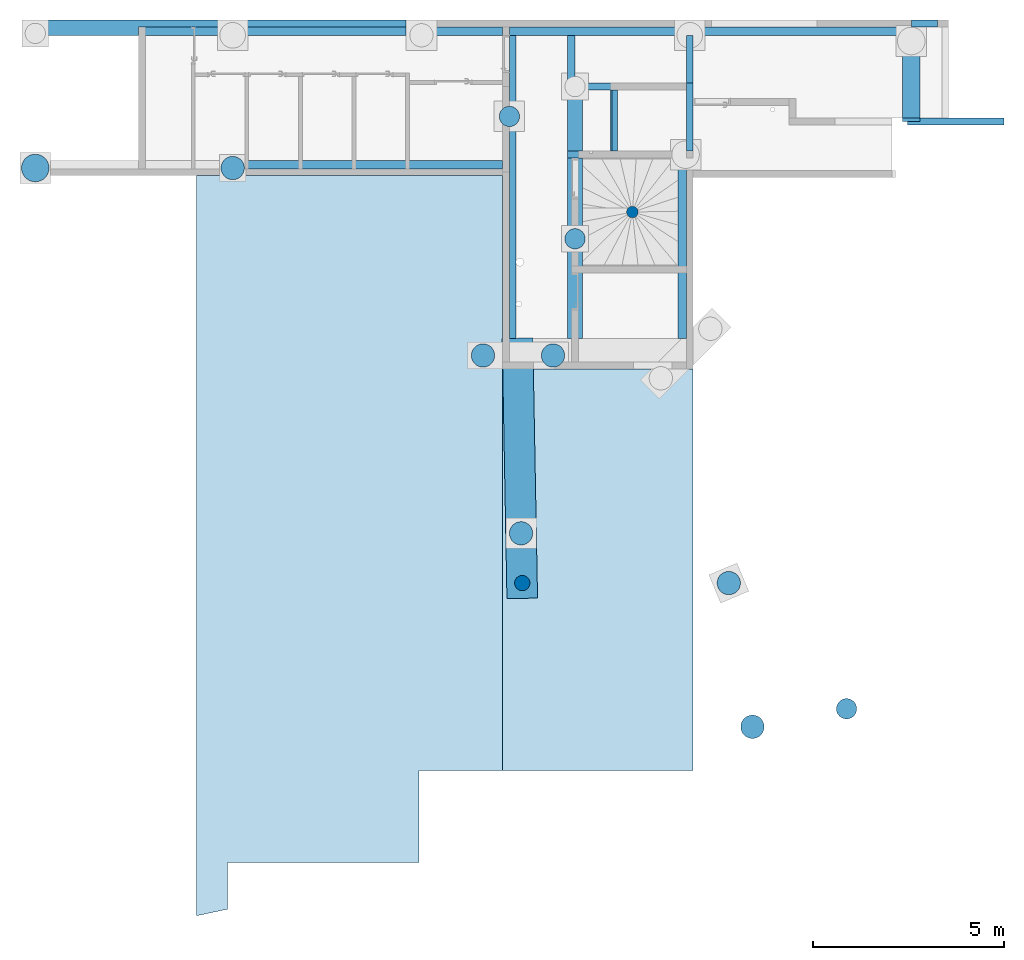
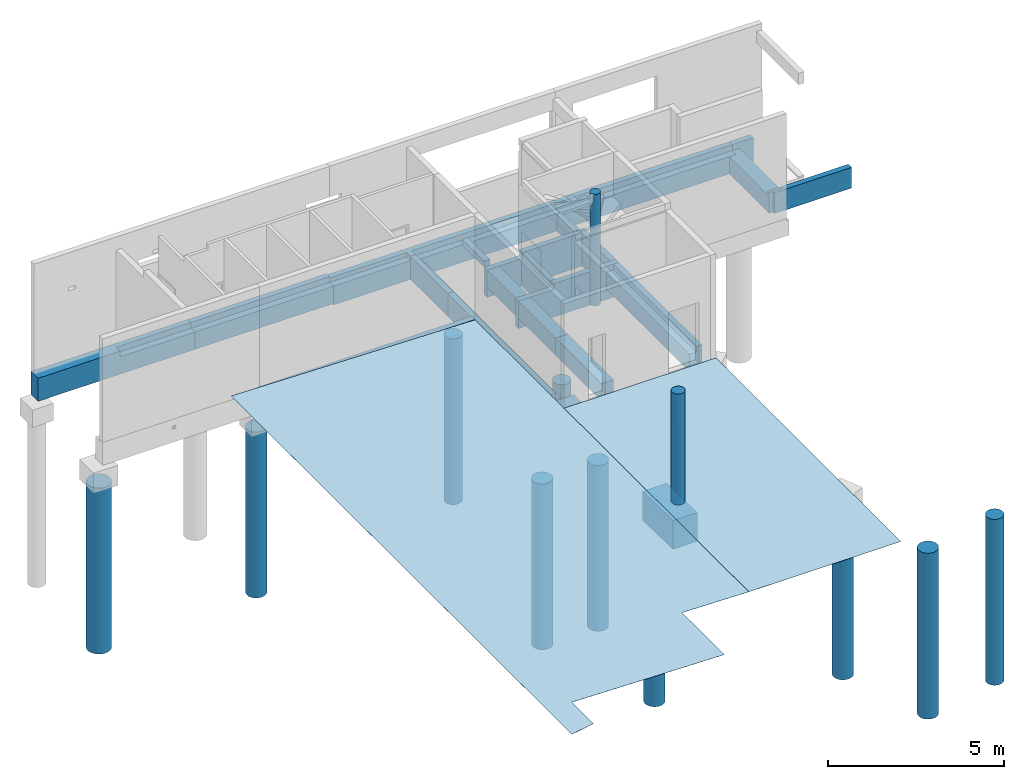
# One storey, part 1 of 14: 21 beams, 12 slabs, 2 columns, 3 openings.
"""IFC2X3 building model written with IfcOpenShell, lengths in centimetres."""

from ifc_helpers import new_model, entity, si_unit, converted_unit, derived_unit, direction, frame, frame_2d, origin, origin_2d_with_axis, place, context, subcontext, project, spatial, polyline, rectangle, circle, outline, extrude, faceted_brep, source, transform, mapped, material, material_list, layer, layer_set, layer_usage, type_object, type_shapes, element, save


model = new_model("IFC2X3")

# Units and contexts
model_context = context("Model", 3, precision=0.001, world=origin(), true_north=direction((6.12303176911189e-17, 1.0)))
body_context = subcontext(model_context, "Body", "Model", "MODEL_VIEW")
ifc_project = project(units=[si_unit("LENGTHUNIT", "METRE", prefix="CENTI"), si_unit("AREAUNIT", "SQUARE_METRE"), si_unit("VOLUMEUNIT", "CUBIC_METRE"), converted_unit("PLANEANGLEUNIT", "DEGREE", entity("IfcRatioMeasure", 0.0174532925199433), si_unit("PLANEANGLEUNIT", "RADIAN"), dimensions=[0, 0, 0, 0, 0, 0, 0]), si_unit("MASSUNIT", "GRAM", prefix="KILO"), derived_unit("MASSDENSITYUNIT", [(si_unit("MASSUNIT", "GRAM", prefix="KILO"), 1), (si_unit("LENGTHUNIT", "METRE"), -3)]), si_unit("TIMEUNIT", "SECOND"), si_unit("FREQUENCYUNIT", "HERTZ"), si_unit("THERMODYNAMICTEMPERATUREUNIT", "DEGREE_CELSIUS"), derived_unit("THERMALTRANSMITTANCEUNIT", [(si_unit("MASSUNIT", "GRAM", prefix="KILO"), 1), (si_unit("THERMODYNAMICTEMPERATUREUNIT", "KELVIN"), -1), (si_unit("TIMEUNIT", "SECOND"), -3)]), derived_unit("VOLUMETRICFLOWRATEUNIT", [(si_unit("LENGTHUNIT", "METRE"), 3), (si_unit("TIMEUNIT", "SECOND"), -1)]), si_unit("ELECTRICCURRENTUNIT", "AMPERE"), si_unit("ELECTRICVOLTAGEUNIT", "VOLT"), si_unit("POWERUNIT", "WATT"), si_unit("FORCEUNIT", "NEWTON"), si_unit("ILLUMINANCEUNIT", "LUX"), si_unit("LUMINOUSFLUXUNIT", "LUMEN"), si_unit("LUMINOUSINTENSITYUNIT", "CANDELA"), derived_unit("USERDEFINED", [(si_unit("MASSUNIT", "GRAM", prefix="KILO"), -1), (si_unit("LENGTHUNIT", "METRE"), -2), (si_unit("TIMEUNIT", "SECOND"), 3), (si_unit("LUMINOUSFLUXUNIT", "LUMEN"), 1)]), derived_unit("LINEARVELOCITYUNIT", [(si_unit("LENGTHUNIT", "METRE"), 1), (si_unit("TIMEUNIT", "SECOND"), -1)]), si_unit("PRESSUREUNIT", "PASCAL"), derived_unit("USERDEFINED", [(si_unit("LENGTHUNIT", "METRE"), -2), (si_unit("MASSUNIT", "GRAM", prefix="KILO"), 1), (si_unit("TIMEUNIT", "SECOND"), -2)])], contexts=[model_context])

# Site, building, storey
site_placement = place(None, origin())
site = spatial("IfcSite", under=ifc_project, at=site_placement, Name="Default", CompositionType="ELEMENT")
building_placement = place(site_placement, origin())
building = spatial("IfcBuilding", under=site, at=building_placement, Name="CAGE 03", CompositionType="ELEMENT")
storey_placement = place(building_placement, frame((0.0, 0.0, -42.0)))
storey = spatial("IfcBuildingStorey", under=building, at=storey_placement, Name="+3.58", CompositionType="ELEMENT", Elevation=-42.0000000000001)

# Columns
ifc_material_1 = material(Name="Béton, C25/30")
column_type_1 = type_object("IfcColumnType", Name="Ø40", PredefinedType="COLUMN", material=ifc_material_1)
shared_shape_1 = source(origin(), body_context, "Body", "SweptSolid", [
    extrude(circle(Radius=20.0000000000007, at=frame_2d((-3.75232390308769e-26, -8.66293703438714e-13), x_axis=(1.0, 0.0))), frame((10061.3658201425, 3821.66066607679, 240.0), z_axis=(0.0, 0.0, 1.0), x_axis=(-1.0, 0.0, 0.0)), (0.0, 0.0, 1.0), 100.0),
    extrude(circle(Radius=20.0000000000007, at=frame_2d((-3.75232390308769e-26, -8.66293703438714e-13), x_axis=(1.0, 0.0))), frame((10061.3658201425, 3821.66066607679, -74.0)), (0.0, 0.0, 1.0), 314.0),
])
type_shapes(column_type_1, [shared_shape_1])
column_1_placement = place(storey_placement, frame((0.0, 0.0, 42.0)))
element("IfcColumn", 1, at=column_1_placement, inside=storey, type_object=column_type_1, material=ifc_material_1, Name="BBGO-Poteau circ:Ø40", ObjectType="Ø40", context=body_context, shape_type="MappedRepresentation", body=[
    mapped(shared_shape_1, transform((0.0, 0.0, 0.0), scale=1.0)),
])
ifc_material_2 = material(Name="Béton, panneaux préfa 30/37")
column_type_2 = type_object("IfcColumnType", Name="Ø30", PredefinedType="COLUMN", material=ifc_material_2)
shared_shape_2 = source(origin(), body_context, "Body", "SweptSolid", [
    extrude(circle(Radius=15.0, at=origin_2d_with_axis()), frame((10349.3658201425, 4791.66066607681, 320.0), z_axis=(0.0, 0.0, 1.0), x_axis=(-1.0, 0.0, 0.0)), (0.0, 0.0, 1.0), 20.0),
    extrude(circle(Radius=15.0, at=origin_2d_with_axis()), frame((10349.3658201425, 4791.66066607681, -47.0)), (0.0, 0.0, 1.0), 367.0),
])
type_shapes(column_type_2, [shared_shape_2])
column_2_placement = place(storey_placement, frame((0.0, 0.0, 42.0)))
element("IfcColumn", 2, at=column_2_placement, inside=storey, type_object=column_type_2, material=ifc_material_2, Name="BBGO-Poteau circ:Ø30", ObjectType="Ø30", context=body_context, shape_type="MappedRepresentation", body=[
    mapped(shared_shape_2, transform((0.0, 0.0, 0.0), scale=1.0)),
])

# Beams
ifc_material_3 = material(Name="<Unnamed>")
ifc_material_list = material_list([ifc_material_1, ifc_material_3])
beam_type_1 = type_object("IfcBeamType", Name="40x80ht", PredefinedType="BEAM", material=ifc_material_list)
beam_1_placement = place(storey_placement, frame((8789.36582014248, 5253.66066607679, -80.0)))
element("IfcBeam", 3, at=beam_1_placement, inside=storey, type_object=beam_type_1, material=ifc_material_1, Name="BBGO-Poutre rect:40x80ht", ObjectType="BBGO-Poutre rect:40x80ht", context=body_context, shape_type="Brep", body=[
    faceted_brep([(0.0, 0.0, 80.0), (0.0, 22.0, 80.0), (0.0, 40.0, 80.0), (0.0, 40.0, 0.0), (0.0, 0.0, 0.0), (515.0, 0.0, 0.0), (515.0, 0.0, 60.0), (269.0, 0.0, 60.0), (269.0, 0.0, 80.0), (34.0, 40.0, 0.0), (475.0, 40.0, 0.0), (515.0, 40.0, 0.0), (515.0, 40.0, 80.0), (269.0, 22.0, 80.0), (515.0, 22.0, 80.0), (515.0, 22.0, 60.0), (269.0, 22.0, 60.0)], [[[0, 1, 2, 3, 4]], [[0, 4, 5, 6, 7, 8]], [[4, 3, 9, 10, 11, 5]], [[3, 2, 12, 11, 10, 9]], [[2, 1, 0, 8, 13, 14, 12]], [[15, 16, 7, 6]], [[16, 13, 8, 7]], [[13, 16, 15, 14]], [[5, 11, 12, 14, 15, 6]]]),
])
beam_2_placement = place(storey_placement, frame((9304.36582014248, 5293.66066607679, 0.0)))
element("IfcBeam", 4, at=beam_2_placement, inside=storey, type_object=beam_type_1, material=ifc_material_1, Name="BBGO-Poutre rect:40x80ht", ObjectType="BBGO-Poutre rect:40x80ht", context=body_context, shape_type="SweptSolid", body=[
    extrude(outline(polyline([(-13.3333333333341, -20.6666666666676), (46.6666666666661, -20.6666666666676), (46.6666666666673, 19.3333333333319), (-33.3333333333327, 19.3333333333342), (-33.3333333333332, 1.33333333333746), (-13.3333333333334, 1.33333333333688), (-13.3333333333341, -20.6666666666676)])), frame((0.0, -19.3333333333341, -33.3333333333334), z_axis=(1.0, 0.0, 0.0), x_axis=(0.0, 0.0, -1.0)), (0.0, 0.0, 1.0), 453.499999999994),
])
beam_3_placement = place(storey_placement, frame((9757.86582014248, 5253.66066607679, -85.0)))
element("IfcBeam", 5, at=beam_3_placement, inside=storey, type_object=beam_type_1, material=ifc_material_1, Name="BBGO-Poutre rect:40x80ht", ObjectType="BBGO-Poutre rect:40x80ht", context=body_context, shape_type="Brep", body=[
    faceted_brep([(0.0, 0.0, 0.0), (252.5, 0.0, 0.0), (287.499999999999, 0.0, 0.0), (732.499999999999, 0.0, 0.0), (741.5, 0.0, 0.0), (741.5, 0.0, 60.0), (732.499999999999, 0.0, 60.0), (287.499999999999, 0.0, 60.0), (270.499999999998, 0.0, 60.0), (270.499999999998, 0.0, 80.0), (252.5, 0.0, 80.0), (252.5, 0.0, 65.0), (0.0, 0.0, 65.0), (0.0, 0.0, 5.0), (0.0, 40.0, 0.0), (80.0, 40.0, 0.0), (701.5, 40.0, 0.0), (741.5, 40.0, 0.0), (0.0, 40.0, 5.0), (0.0, 40.0, 80.0), (741.5, 40.0, 80.0), (0.0, 22.0, 80.0), (252.5, 22.0, 80.0), (270.499999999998, 22.0, 80.0), (741.5, 22.0, 80.0), (741.5, 22.0, 60.0), (270.499999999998, 22.0, 60.0), (252.5, 22.0, 65.0), (0.0, 22.0, 65.0)], [[[0, 1, 2, 3, 4, 5, 6, 7, 8, 9, 10, 11, 12, 13]], [[4, 3, 2, 1, 0, 14, 15, 16, 17]], [[17, 16, 15, 14, 18, 19, 20]], [[20, 19, 21, 22, 10, 9, 23, 24]], [[4, 17, 20, 24, 25, 5]], [[25, 26, 8, 7, 6, 5]], [[26, 25, 24, 23]], [[26, 23, 9, 8]], [[27, 28, 12, 11]], [[27, 11, 10, 22]], [[28, 27, 22, 21]], [[19, 18, 14, 0, 13, 12, 28, 21]]]),
])
beam_4_placement = place(storey_placement, frame((10499.3658201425, 5293.66066607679, 0.0)))
element("IfcBeam", 6, at=beam_4_placement, inside=storey, type_object=beam_type_1, material=ifc_material_1, Name="BBGO-Poutre rect:40x80ht", ObjectType="BBGO-Poutre rect:40x80ht", context=body_context, shape_type="SweptSolid", body=[
    extrude(outline(polyline([(-13.3333333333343, -20.6666666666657), (46.6666666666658, -20.6666666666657), (46.6666666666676, 19.3333333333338), (-33.3333333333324, 19.3333333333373), (-33.3333333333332, 1.33333333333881), (-13.3333333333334, 1.33333333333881), (-13.3333333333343, -20.6666666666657)])), frame((0.0, -19.3333333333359, -38.3333333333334), z_axis=(1.0, 0.0, 0.0), x_axis=(0.0, 0.0, -1.0)), (0.0, 0.0, 1.0), 578.999999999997),
])
beam_5_placement = place(storey_placement, frame((9304.36582014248, 4886.66066607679, 0.0)))
element("IfcBeam", 7, at=beam_5_placement, inside=storey, type_object=beam_type_1, material=ifc_material_1, Name="BBGO-Poutre rect:40x80ht", ObjectType="BBGO-Poutre rect:40x80ht", context=body_context, shape_type="SweptSolid", body=[
    extrude(outline(polyline([(-33.3333333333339, -19.3333333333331), (46.6666666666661, -19.3333333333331), (46.6666666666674, 20.6666666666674), (-13.3333333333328, 20.6666666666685), (-13.3333333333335, -1.33333333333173), (-33.3333333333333, -1.33333333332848), (-33.3333333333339, -19.3333333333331)])), frame((0.0, 19.3333333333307, -33.3333333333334), z_axis=(1.0, 0.0, 0.0), x_axis=(0.0, 0.0, -1.0)), (0.0, 0.0, 1.0), 706.000000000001),
])
beam_6_placement = place(storey_placement, frame((10199.3658201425, 4461.66066607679, 0.0), z_axis=(0.0, 0.0, 1.0), x_axis=(0.0, 1.0, 0.0)))
element("IfcBeam", 8, at=beam_6_placement, inside=storey, type_object=beam_type_1, material=ifc_material_1, Name="BBGO-Poutre rect:40x80ht", ObjectType="BBGO-Poutre rect:40x80ht", context=body_context, shape_type="SweptSolid", body=[
    extrude(rectangle(XDim=60.0000000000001, YDim=40.0000000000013, at=frame_2d((7.105427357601e-15, 0.0), x_axis=(1.0, 0.0))), frame((0.0, 0.0, -55.0), z_axis=(1.0, 0.0, 0.0), x_axis=(0.0, 0.0, -1.0)), (0.0, 0.0, 1.0), 259.999999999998),
])
beam_7_placement = place(storey_placement, frame((10508.3658201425, 4461.66066607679, 0.0), z_axis=(0.0, 0.0, 1.0), x_axis=(0.0, 1.0, 0.0)))
element("IfcBeam", 9, at=beam_7_placement, inside=storey, type_object=beam_type_1, material=ifc_material_1, Name="BBGO-Poutre rect:40x80ht", ObjectType="BBGO-Poutre rect:40x80ht", context=body_context, shape_type="SweptSolid", body=[
    extrude(outline(polyline([(-33.3333333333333, -19.3333333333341), (46.6666666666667, -19.3333333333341), (46.6666666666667, 20.6666666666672), (-13.3333333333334, 20.6666666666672), (-13.3333333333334, -1.33333333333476), (-33.3333333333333, -1.33333333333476), (-33.3333333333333, -19.3333333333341)])), frame((0.0, 19.3333333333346, -38.3333333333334), z_axis=(1.0, 0.0, 0.0), x_axis=(0.0, 0.0, -1.0)), (0.0, 0.0, 1.0), 471.000000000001),
])
beam_type_2 = type_object("IfcBeamType", Name="BBGO-Poutre rect:80x100ht", PredefinedType="BEAM")
beam_8_placement = place(storey_placement, frame((10021.379262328, 3780.92745595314, 0.0), z_axis=(0.0, 0.0, 1.0), x_axis=(-0.0183302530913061, 0.999831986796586, 0.0)))
element("IfcBeam", 10, at=beam_8_placement, inside=storey, type_object=beam_type_2, material=ifc_material_1, Name="BBGO-Poutre rect:80x100ht", ObjectType="BBGO-Poutre rect:80x100ht", context=body_context, shape_type="SweptSolid", body=[
    extrude(rectangle(XDim=100.0, YDim=79.9999999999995, at=frame_2d((1.4210854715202e-14, 0.0), x_axis=(1.0, 0.0))), frame((0.0, -40.0, -82.0), z_axis=(1.0, 0.0, 0.0), x_axis=(0.0, 0.0, -1.0)), (0.0, 0.0, 1.0), 170.000000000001),
])
beam_9_placement = place(storey_placement, frame((10018.2631193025, 3950.89889370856, 0.0), z_axis=(0.0, 0.0, 1.0), x_axis=(-0.0183302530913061, 0.999831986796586, 0.0)))
element("IfcBeam", 11, at=beam_9_placement, inside=storey, type_object=beam_type_2, material=ifc_material_1, Name="BBGO-Poutre rect:80x100ht", ObjectType="BBGO-Poutre rect:80x100ht", context=body_context, shape_type="SweptSolid", body=[
    extrude(rectangle(XDim=100.0, YDim=79.9999999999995, at=frame_2d((-1.4210854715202e-14, 8.77520278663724e-13), x_axis=(1.0, 0.0))), frame((0.0, -40.0, -82.0), z_axis=(1.0, 0.0, 0.0), x_axis=(0.0, 0.0, -1.0)), (0.0, 0.0, 1.0), 510.114268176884),
])
beam_type_3 = type_object("IfcBeamType", Name="BBGO-Poutre rect:18x80ht", PredefinedType="BEAM")
beam_10_placement = place(storey_placement, frame((10499.3658201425, 5128.66066607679, 0.0), z_axis=(0.0, 0.0, 1.0), x_axis=(0.0, 1.0, 0.0)))
element("IfcBeam", 12, at=beam_10_placement, inside=storey, type_object=beam_type_3, material=ifc_material_1, Name="BBGO-Poutre rect:18x80ht", ObjectType="BBGO-Poutre rect:18x80ht", context=body_context, shape_type="SweptSolid", body=[
    extrude(rectangle(XDim=60.0000000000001, YDim=17.9999999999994, at=frame_2d((-7.105427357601e-15, -1.73283609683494e-12), x_axis=(1.0, 0.0))), frame((0.0, 0.0, -55.0), z_axis=(1.0, 0.0, 0.0), x_axis=(0.0, 0.0, -1.0)), (0.0, 0.0, 1.0), 124.999999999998),
])
beam_11_placement = place(storey_placement, frame((11068.3658201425, 5019.16066607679, -85.0), z_axis=(0.0, 0.0, 1.0), x_axis=(-1.0, 0.0, 0.0)))
element("IfcBeam", 13, at=beam_11_placement, inside=storey, type_object=beam_type_3, material=ifc_material_1, Name="BBGO-Poutre rect:18x80ht", ObjectType="BBGO-Poutre rect:18x80ht", context=body_context, shape_type="Brep", body=[
    faceted_brep([(0.0, 0.0, 0.0), (0.0, 0.0, 52.0), (0.0, 0.0, 72.0), (0.0, -9.0, 72.0), (0.0, -9.0, 0.0), (-252.441114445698, 0.0, 0.0), (-252.441114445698, -18.0, 0.0), (-252.441114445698, -18.0, 72.0), (-252.441114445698, 0.0, 72.0), (-226.602656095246, -18.0, 0.0), (-32.4999999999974, -18.0, 0.0), (-32.4999999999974, -18.0, 60.0), (-32.4999999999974, -18.0, 72.0), (-108.0, -18.0, 72.0), (-233.837424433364, -18.0, 72.0), (-231.303430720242, 0.0, 0.0), (-32.4999999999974, -9.0, 0.0), (-238.538199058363, 0.0, 72.0), (-32.4999999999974, -9.0, 72.0)], [[[0, 1, 2, 3, 4]], [[5, 6, 7, 8]], [[6, 9, 10, 11, 12, 13, 14, 7]], [[6, 5, 15, 0, 4, 16, 10, 9]], [[0, 15, 5, 8, 17, 2, 1]], [[12, 18, 3, 2, 17, 8, 7, 14, 13]], [[16, 18, 12, 11, 10]], [[18, 16, 4, 3]]]),
])
beam_12_placement = place(storey_placement, frame((11078.3658201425, 5293.66066607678, 0.0)))
element("IfcBeam", 14, at=beam_12_placement, inside=storey, type_object=beam_type_3, material=ifc_material_1, Name="BBGO-Poutre rect:18x80ht", ObjectType="BBGO-Poutre rect:18x80ht", context=body_context, shape_type="SweptSolid", body=[
    extrude(rectangle(XDim=80.0, YDim=17.9999999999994, at=frame_2d((-3.5527136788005e-15, 4.33431068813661e-13), x_axis=(1.0, 0.0))), frame((0.0, -9.0, -45.0), z_axis=(1.0, 0.0, 0.0), x_axis=(0.0, 0.0, -1.0)), (0.0, 0.0, 1.0), 69.0000000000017),
])
beam_type_4 = type_object("IfcBeamType", Name="BBGO-Poutre rect:18x113ht", PredefinedType="BEAM")
beam_13_placement = place(storey_placement, frame((10301.3658201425, 4941.66066607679, 0.0), z_axis=(0.0, 0.0, 1.0), x_axis=(0.0, 1.0, 0.0)))
element("IfcBeam", 15, at=beam_13_placement, inside=storey, type_object=beam_type_4, material=ifc_material_1, Name="BBGO-Poutre rect:18x113ht", ObjectType="BBGO-Poutre rect:18x113ht", context=body_context, shape_type="SweptSolid", body=[
    extrude(outline(polyline([(-43.6666666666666, -11.0), (69.3333333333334, -11.0), (69.3333333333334, 7.0), (-25.6666666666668, 7.0), (-25.6666666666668, 4.0), (-43.6666666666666, 4.0), (-43.6666666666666, -11.0)])), frame((9.0, 2.0, -50.6666666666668), z_axis=(1.0, 0.0, 0.0), x_axis=(0.0, 0.0, -1.0)), (0.0, 0.0, 1.0), 160.000000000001),
])
beam_type_5 = type_object("IfcBeamType", Name="BBGO-Poutre rect:18x115ht", PredefinedType="BEAM")
beam_14_placement = place(storey_placement, frame((10499.3658201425, 4941.66066607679, 0.0), z_axis=(0.0, 0.0, 1.0), x_axis=(0.0, 1.0, 0.0)))
element("IfcBeam", 16, at=beam_14_placement, inside=storey, type_object=beam_type_5, material=ifc_material_1, Name="BBGO-Poutre rect:18x115ht", ObjectType="BBGO-Poutre rect:18x115ht", context=body_context, shape_type="SweptSolid", body=[
    extrude(rectangle(XDim=115.0, YDim=17.9999999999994, at=frame_2d((0.0, 8.66862137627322e-13), x_axis=(1.0, 0.0))), frame((9.0, 0.0, -62.5000000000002), z_axis=(1.0, 0.0, 0.0), x_axis=(0.0, 0.0, -1.0)), (0.0, 0.0, 1.0), 178.0),
])
beam_15_placement = place(storey_placement, frame((10179.3658201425, 4932.66066607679, -120.0), z_axis=(0.0, 0.0, 1.0), x_axis=(-1.0, 0.0, 0.0)))
element("IfcBeam", 17, at=beam_15_placement, inside=storey, type_object=beam_type_5, material=ifc_material_1, Name="BBGO-Poutre rect:18x115ht", ObjectType="BBGO-Poutre rect:18x115ht", context=body_context, shape_type="Brep", body=[
    faceted_brep([(0.0, -18.0, 0.0), (0.0, 0.0, 0.0), (0.0, 0.0, 35.0), (0.0, 0.0, 95.0), (0.0, -18.0, 95.0), (0.0, -18.0, 35.0), (-329.0, -18.0, 115.0), (-329.0, 0.0, 115.0), (-329.0, 0.0, 95.0), (-329.0, 0.0, 35.0), (-329.0, 0.0, 0.0), (-329.0, -18.0, 0.0), (-329.0, -18.0, 95.0), (-311.0, -18.0, 0.0), (-131.0, -18.0, 0.0), (-113.0, -18.0, 0.0), (-40.0, -18.0, 95.0), (-113.0, -18.0, 95.0), (-116.0, -18.0, 95.0), (-116.0, -18.0, 113.0), (-116.0, -18.0, 115.0), (-311.0, -18.0, 115.0), (-311.0, 0.0, 115.0), (-116.0, 0.0, 115.0), (-116.0, 0.0, 95.0), (-40.0, 0.0, 95.0)], [[[0, 1, 2, 3, 4, 5]], [[6, 7, 8, 9, 10, 11, 12]], [[11, 13, 14, 15, 0, 5, 4, 16, 17, 18, 19, 20, 21, 6, 12]], [[1, 0, 15, 14, 13, 11, 10]], [[1, 10, 9, 8, 7, 22, 23, 24, 25, 3, 2]], [[7, 6, 21, 20, 23, 22]], [[24, 18, 17, 16, 4, 3, 25]], [[18, 24, 23, 20, 19]]]),
])
beam_16_placement = place(storey_placement, frame((10179.3658201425, 5110.66066607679, -120.0), z_axis=(0.0, 0.0, 1.0), x_axis=(-1.0, 0.0, 0.0)))
element("IfcBeam", 18, at=beam_16_placement, inside=storey, type_object=beam_type_5, material=ifc_material_1, Name="BBGO-Poutre rect:18x115ht", ObjectType="BBGO-Poutre rect:18x115ht", context=body_context, shape_type="Brep", body=[
    faceted_brep([(0.0, -18.0, 0.0), (0.0, 0.0, 0.0), (0.0, 0.0, 35.0), (0.0, 0.0, 95.0), (0.0, -18.0, 95.0), (-116.0, -18.0, 95.0), (-116.0, -18.0, 115.0), (-311.0, -18.0, 115.0), (-311.0, -18.0, 0.0), (-311.0, 0.0, 0.0), (-131.0, 0.0, 0.0), (-113.0, 0.0, 0.0), (-311.0, 0.0, 20.0), (-311.0, 0.0, 115.0), (-116.0, 0.0, 115.0), (-116.0, 0.0, 113.0), (-116.0, 0.0, 95.0), (-113.0, 0.0, 95.0), (-40.0, 0.0, 95.0)], [[[0, 1, 2, 3, 4]], [[4, 5, 6, 7, 8, 0]], [[1, 0, 8, 9, 10, 11]], [[3, 2, 1, 11, 10, 9, 12, 13, 14, 15, 16, 17, 18]], [[6, 14, 13, 7]], [[5, 4, 3, 18, 17, 16]], [[8, 7, 13, 12, 9]], [[5, 16, 15, 14, 6]]]),
])
beam_type_6 = type_object("IfcBeamType", Name="BBGO-Poutre rect:35x80ht", PredefinedType="BEAM")
beam_17_placement = place(storey_placement, frame((10010.3658201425, 4381.660666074, 0.0), z_axis=(0.0, 0.0, 1.0), x_axis=(0.0, 1.0, 0.0)))
element("IfcBeam", 19, at=beam_17_placement, inside=storey, type_object=beam_type_6, material=ifc_material_1, Name="BBGO-Poutre rect:35x80ht", ObjectType="BBGO-Poutre rect:35x80ht", context=body_context, shape_type="SweptSolid", body=[
    extrude(outline(polyline([(-13.3333333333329, -17.333333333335), (46.6666666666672, -17.333333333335), (46.6666666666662, 17.6666666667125), (-33.3333333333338, 17.6666666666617), (-33.3333333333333, -0.333333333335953), (-13.3333333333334, -0.333333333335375), (-13.3333333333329, -17.333333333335)])), frame((80.0, -17.6666666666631, -38.3333333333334), z_axis=(1.0, 0.0, 0.0), x_axis=(0.0, 0.0, -1.0)), (0.0, 0.0, 1.0), 579.999999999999),
])
beam_18_placement = place(storey_placement, frame((10010.3658201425, 5041.66066607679, 0.0), z_axis=(0.0, 0.0, 1.0), x_axis=(0.0, 1.0, 0.0)))
element("IfcBeam", 20, at=beam_18_placement, inside=storey, type_object=beam_type_6, material=ifc_material_1, Name="BBGO-Poutre rect:35x80ht", ObjectType="BBGO-Poutre rect:35x80ht", context=body_context, shape_type="SweptSolid", body=[
    extrude(outline(polyline([(-13.3333333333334, -17.3333333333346), (46.6666666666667, -17.3333333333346), (46.6666666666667, 17.6666666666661), (-33.3333333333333, 17.6666666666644), (-33.3333333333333, -0.333333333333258), (-13.3333333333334, -0.333333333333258), (-13.3333333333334, -17.3333333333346)])), frame((0.0, -17.666666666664, -38.3333333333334), z_axis=(1.0, 0.0, 0.0), x_axis=(0.0, 0.0, -1.0)), (0.0, 0.0, 1.0), 211.999999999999),
])
beam_type_7 = type_object("IfcBeamType", Name="BBGO-Poutre rect:45x80ht", PredefinedType="BEAM")
beam_19_placement = place(storey_placement, frame((11055.8658201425, 5028.16066607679, -85.0), z_axis=(0.0, 0.0, 1.0), x_axis=(0.0, 1.0, 0.0)))
element("IfcBeam", 21, at=beam_19_placement, inside=storey, type_object=beam_type_7, material=ifc_material_1, Name="BBGO-Poutre rect:45x80ht", ObjectType="BBGO-Poutre rect:45x80ht", context=body_context, shape_type="Brep", body=[
    faceted_brep([(0.0, -45.0, 0.0), (9.0, -45.0, 0.0), (247.499999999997, -45.0, 0.0), (247.499999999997, -45.0, 60.0), (9.0, -45.0, 60.0), (9.0, -45.0, 72.0), (0.0, -45.0, 72.0), (0.0, -12.500000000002, 0.0), (0.0, 0.0, 0.0), (9.0, 0.0, 0.0), (225.499999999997, 0.0, 0.0), (225.499999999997, -22.4999999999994, 0.0), (247.499999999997, -22.4999999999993, 0.0), (9.0, 0.0, 60.0), (225.499999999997, 0.0, 60.0), (0.0, 0.0, 72.0), (9.0, 0.0, 72.0), (247.499999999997, -22.4999999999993, 60.0), (225.499999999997, -22.4999999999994, 60.0), (0.0, -12.500000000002, 72.0)], [[[0, 1, 2, 3, 4, 5, 6]], [[2, 1, 0, 7, 8, 9, 10, 11, 12]], [[13, 14, 10, 9, 8, 15, 16]], [[2, 12, 17, 3]], [[11, 10, 14, 18]], [[12, 11, 18, 17]], [[4, 3, 17, 18, 14, 13]], [[4, 13, 16, 5]], [[6, 5, 16, 15, 19]], [[8, 7, 0, 6, 19, 15]]]),
])
beam_type_8 = type_object("IfcBeamType", Name="20x20ht", PredefinedType="BEAM", material=ifc_material_1)
shared_shape_3 = source(origin(), body_context, "Body", "Brep", [
    faceted_brep([(20.0, 125.0, 20.0), (20.0, 125.0, 0.0), (0.0, 125.0, 0.0), (0.0, 125.0, 20.0), (20.0, 0.0, 20.0), (0.0, 0.0, 20.0), (0.0, 0.0, 0.0), (20.0, 0.0, 0.0)], [[[0, 1, 2, 3]], [[4, 5, 6, 7]], [[1, 0, 4, 7]], [[2, 1, 7, 6]], [[3, 2, 6, 5]], [[0, 3, 5, 4]]]),
])
type_shapes(beam_type_8, [shared_shape_3])
beam_20_placement = place(storey_placement, frame((10179.3658201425, 5128.66066607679, -25.0)))
element("IfcBeam", 22, at=beam_20_placement, inside=storey, type_object=beam_type_8, material=ifc_material_1, Name="BBGO-Poutre rect:20x20ht", ObjectType="20x20ht", context=body_context, shape_type="MappedRepresentation", body=[
    mapped(shared_shape_3, transform((0.0, 0.0, 0.0), scale=1.0)),
])
beam_type_9 = type_object("IfcBeamType", Name="40x80ht", PredefinedType="BEAM", material=ifc_material_1)
shared_shape_4 = source(origin(), body_context, "Body", "SweptSolid", [
    extrude(rectangle(XDim=160.000000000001, YDim=40.0000000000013, at=frame_2d((-4.33431068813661e-13, 0.0), x_axis=(1.0, 0.0))), frame((10199.3658201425, 5030.66066607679, -127.0), z_axis=(0.0, 0.0, 1.0), x_axis=(0.0, -1.0, 0.0)), (0.0, 0.0, 1.0), 60.0000000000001),
    extrude(rectangle(XDim=40.0000000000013, YDim=211.000000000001, at=frame_2d((0.0, -4.33431068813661e-13), x_axis=(1.0, 0.0))), frame((10199.3658201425, 4827.16066607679, -127.0), z_axis=(0.0, 0.0, 1.0), x_axis=(-1.0, 0.0, 0.0)), (0.0, 0.0, 1.0), 60.0000000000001),
])
type_shapes(beam_type_9, [shared_shape_4])
beam_21_placement = place(storey_placement, frame((0.0, 0.0, 42.0)))
element("IfcBeam", 23, at=beam_21_placement, inside=storey, type_object=beam_type_9, material=ifc_material_1, Name="BBGO-Poutre rect:40x80ht", ObjectType="40x80ht", context=body_context, shape_type="MappedRepresentation", body=[
    mapped(shared_shape_4, transform((0.0, 0.0, 0.0), scale=1.0)),
])

# Slabs
ifc_material_4 = material(Name="B25")
slab_1_placement = place(storey_placement, origin())
element("IfcSlab", 24, at=slab_1_placement, inside=storey, material=ifc_material_4, Name="Pieux:Ø41/61", ObjectType="Pieux:Ø41/61", PredefinedType="BASESLAB", context=body_context, shape_type="SweptSolid", body=[
    extrude(circle(Radius=30.5, at=origin_2d_with_axis()), frame((10058.3658201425, 3951.66066607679, -772.0)), (0.0, 0.0, 1.0), 575.0),
])
slab_2_placement = place(storey_placement, origin())
element("IfcSlab", 25, at=slab_2_placement, inside=storey, material=ifc_material_4, Name="Pieux:Ø41/61", ObjectType="Pieux:Ø41/61", PredefinedType="BASESLAB", context=body_context, shape_type="SweptSolid", body=[
    extrude(circle(Radius=30.5, at=origin_2d_with_axis()), frame((10601.3658201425, 3821.66066607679, -790.0)), (0.0, 0.0, 1.0), 575.0),
])
slab_3_placement = place(storey_placement, origin())
element("IfcSlab", 26, at=slab_3_placement, inside=storey, material=ifc_material_4, Name="Pieux:Ø51/72", ObjectType="Pieux:Ø51/72", PredefinedType="BASESLAB", context=body_context, shape_type="SweptSolid", body=[
    extrude(circle(Radius=36.0, at=origin_2d_with_axis()), frame((8788.36582014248, 4906.66066607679, -720.0)), (0.0, 0.0, 1.0), 575.0),
])
slab_4_placement = place(storey_placement, origin())
element("IfcSlab", 27, at=slab_4_placement, inside=storey, material=ifc_material_4, Name="Pieux:Ø41/61", ObjectType="Pieux:Ø41/61", PredefinedType="BASESLAB", context=body_context, shape_type="SweptSolid", body=[
    extrude(circle(Radius=30.5, at=origin_2d_with_axis()), frame((9304.36582014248, 4906.66066607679, -710.0)), (0.0, 0.0, 1.0), 575.0),
])
slab_5_placement = place(storey_placement, origin())
element("IfcSlab", 28, at=slab_5_placement, inside=storey, material=ifc_material_4, Name="Pieux:Ø36/53", ObjectType="Pieux:Ø36/53", PredefinedType="BASESLAB", context=body_context, shape_type="SweptSolid", body=[
    extrude(circle(Radius=26.5, at=origin_2d_with_axis()), frame((10199.3658201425, 4721.66066607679, -750.0)), (0.0, 0.0, 1.0), 575.0),
])
slab_6_placement = place(storey_placement, origin())
element("IfcSlab", 29, at=slab_6_placement, inside=storey, material=ifc_material_4, Name="Pieux:Ø36/53", ObjectType="Pieux:Ø36/53", PredefinedType="BASESLAB", context=body_context, shape_type="SweptSolid", body=[
    extrude(circle(Radius=26.5, at=origin_2d_with_axis()), frame((10027.8658201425, 5041.66066607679, -725.0)), (0.0, 0.0, 1.0), 575.0),
])
slab_7_placement = place(storey_placement, origin())
element("IfcSlab", 30, at=slab_7_placement, inside=storey, material=ifc_material_4, Name="Pieux:Ø41/61", ObjectType="Pieux:Ø41/61", PredefinedType="BASESLAB", context=body_context, shape_type="SweptSolid", body=[
    extrude(circle(Radius=30.5, at=origin_2d_with_axis()), frame((9958.86582014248, 4416.66066607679, -822.0)), (0.0, 0.0, 1.0), 575.0),
])
slab_8_placement = place(storey_placement, origin())
element("IfcSlab", 31, at=slab_8_placement, inside=storey, material=ifc_material_4, Name="Pieux:Ø41/61", ObjectType="Pieux:Ø41/61", PredefinedType="BASESLAB", context=body_context, shape_type="SweptSolid", body=[
    extrude(circle(Radius=30.5, at=origin_2d_with_axis()), frame((10663.2004032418, 3445.8652521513, -720.0)), (0.0, 0.0, 1.0), 575.0),
])

# Slab, openings
ifc_material_5 = material(Name="Site - Asphalte")
ifc_layer = layer(ifc_material_5, 0.1)
ifc_layer_set = layer_set([ifc_layer], Name="Sol:Enrobé")
ifc_layer_usage_1 = layer_usage(ifc_layer_set, "AXIS3", "POSITIVE", 0.0)
slab_9_placement = place(storey_placement, frame((9210.36582014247, 2951.93835479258, -2.10001999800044)))
slab_9 = element("IfcSlab", 32, at=slab_9_placement, inside=storey, material=ifc_layer_usage_1, Name="Sol:Enrobé", ObjectType="Sol:Enrobé", PredefinedType="FLOOR", context=body_context, shape_type="SweptSolid", body=[
    extrude(outline(polyline([(-800.159984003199, -999.722311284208), (-719.143785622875, -982.505229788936), (-719.143785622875, -859.999947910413), (-219.043795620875, -859.999947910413), (-219.043795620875, -619.999959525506), (0.0, -619.999959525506), (0.0, 935.0), (-800.159984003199, 935.0), (-800.159984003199, -999.722311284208)])), frame((800.0, 999.722311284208, 0.100019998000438), z_axis=(0.0199960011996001, 0.0, 0.999800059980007), x_axis=(0.999800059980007, 0.0, -0.0199960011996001)), (0.0199960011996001, 0.0, -0.999800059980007), 0.1000199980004),
])
opening_1_placement = place(slab_9_placement, frame((47.4990759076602, 1736.72231128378, 0.100019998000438)))
element("IfcOpeningElement", 33, at=opening_1_placement, cuts=slab_9, Name="Sol:Enrobé:2", ObjectType="Opening", context=body_context, shape_type="SweptSolid", body=[
    extrude(rectangle(XDim=39.9999999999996, YDim=34.999999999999, at=origin_2d_with_axis()), frame((0.0, 0.0, 0.0), z_axis=(0.0, 0.0, -1.0), x_axis=(0.0, -1.0, 0.0)), (0.0, 0.0, 1.0), 0.1),
])
opening_2_placement = place(slab_9_placement, frame((104.0, 869.72231128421, 0.100019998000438)))
element("IfcOpeningElement", 34, at=opening_2_placement, cuts=slab_9, Name="Sol:Enrobé:3", ObjectType="Opening", context=body_context, shape_type="SweptSolid", body=[
    extrude(circle(Radius=20.0, at=origin_2d_with_axis()), frame((0.0, 0.0, 0.0), z_axis=(0.0, 0.0, -1.0), x_axis=(1.0, 0.0, 0.0)), (0.0, 0.0, 1.0), 0.1),
])

# Slab, opening
ifc_layer_usage_2 = layer_usage(ifc_layer_set, "AXIS3", "POSITIVE", 0.0)
slab_10_placement = place(storey_placement, frame((10010.3658201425, 3331.66070655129, -2.09999999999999)))
slab_10 = element("IfcSlab", 35, at=slab_10_placement, inside=storey, material=ifc_layer_usage_2, Name="Sol:Enrobé", ObjectType="Sol:Enrobé", PredefinedType="FLOOR", context=body_context, shape_type="SweptSolid", body=[
    extrude(rectangle(XDim=1049.99995952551, YDim=498.000000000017, at=frame_2d((0.0, 0.0), x_axis=(0.0, 1.0))), frame((249.0, 524.999979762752, 0.0999999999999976), z_axis=(0.0, 0.0, -1.0), x_axis=(-1.0, 0.0, 0.0)), (0.0, 0.0, 1.0), 0.0999999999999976),
])
opening_3_placement = place(slab_10_placement, frame((51.0, 489.999959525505, 0.0999999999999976)))
element("IfcOpeningElement", 36, at=opening_3_placement, cuts=slab_10, Name="Sol:Enrobé:2", ObjectType="Opening", context=body_context, shape_type="SweptSolid", body=[
    extrude(circle(Radius=20.0, at=origin_2d_with_axis()), frame((0.0, 0.0, 0.0), z_axis=(0.0, 0.0, -1.0), x_axis=(1.0, 0.0, 0.0)), (0.0, 0.0, 1.0), 0.0999999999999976),
])

# Slabs
slab_11_placement = place(storey_placement, origin())
element("IfcSlab", 37, at=slab_11_placement, inside=storey, material=ifc_material_4, Name="Pieux:Ø41/61", ObjectType="Pieux:Ø41/61", PredefinedType="BASESLAB", context=body_context, shape_type="SweptSolid", body=[
    extrude(circle(Radius=30.5, at=origin_2d_with_axis()), frame((10141.8658201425, 4416.66066607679, -822.0)), (0.0, 0.0, 1.0), 575.0),
])
slab_12_placement = place(storey_placement, origin())
element("IfcSlab", 38, at=slab_12_placement, inside=storey, material=ifc_material_4, Name="Pieux:Ø36/53", ObjectType="Pieux:Ø36/53", PredefinedType="BASESLAB", context=body_context, shape_type="SweptSolid", body=[
    extrude(circle(Radius=26.5, at=origin_2d_with_axis()), frame((10909.2179425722, 3492.97430161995, -720.0)), (0.0, 0.0, 1.0), 575.0),
])

save(model, "model.ifc")
